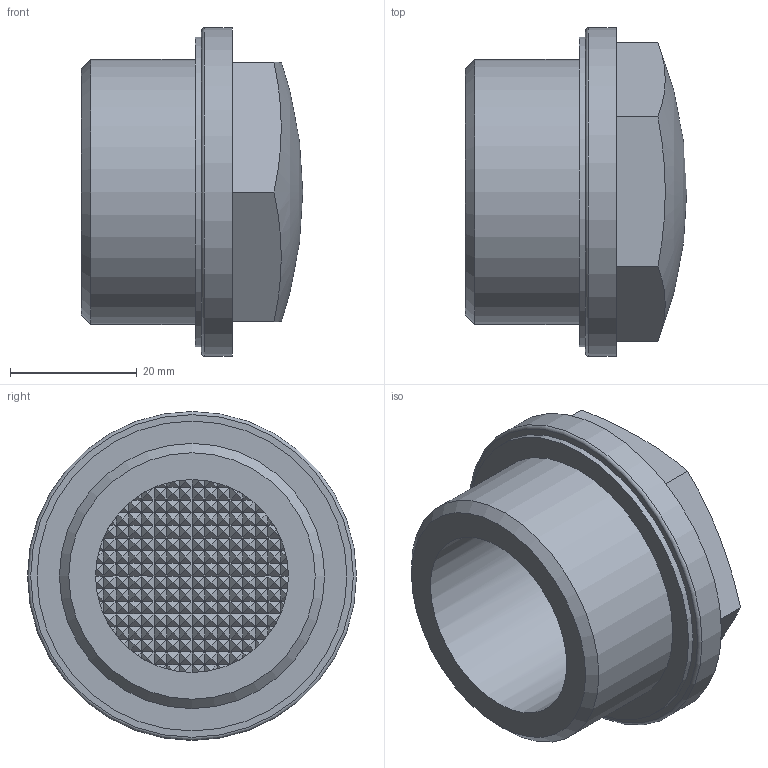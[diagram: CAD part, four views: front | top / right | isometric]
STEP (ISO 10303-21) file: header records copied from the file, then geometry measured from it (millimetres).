
FILE_DESCRIPTION( ( 'STEP AP203' ), '1' );
FILE_NAME( 'C:/Temp/Ganter_Step_05_03_2020/data/3_5/gn541_3/Prismatic-Oil level sight glass GN 541.3-30,5-G11_4.stp', '2020-03-12T13:43:47', ( 'License CC BY-ND 4.0' ), ( 'CADENAS' ), ' ', 'PARTsolutions', ' ' );
FILE_SCHEMA( ( 'CONFIG_CONTROL_DESIGN' ) );
Length unit declared in the file: millimetre
Products named in the file (1): _Prismatic-Oil level sight glass GN 541.3-30,5-G11/4
Bounding box: 35 x 52 x 52 mm (x, y, z)
Volume: 31077 mm3; surface area: 11334.3 mm2
Topology: 1 solids, 1 shells, 825 faces, 1351 edges, 531 vertices
Faces by surface type: plane 818, cylinder 4, torus 1, cone 1, sphere 1
Full cylindrical faces by diameter (mm): 30.5 x1, 41.91 x1, 49 x1, 52 x1
Entity records: 17296 total; most frequent: DIRECTION 3154, CARTESIAN_POINT 2700, ORIENTED_EDGE 2686, EDGE_CURVE 1343, LINE 1184, VECTOR 1184, AXIS2_PLACEMENT_3D 985, EDGE_LOOP 835
